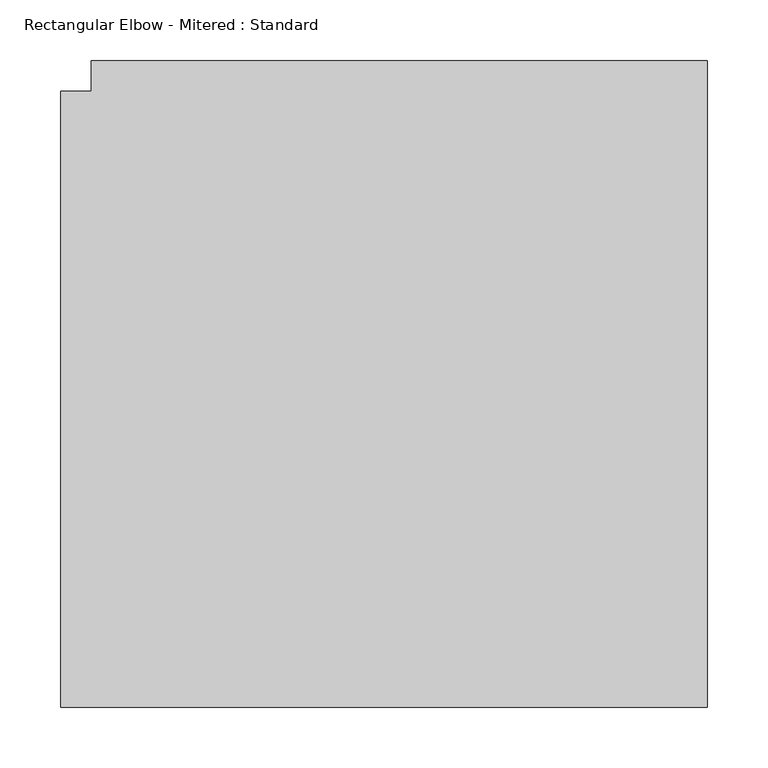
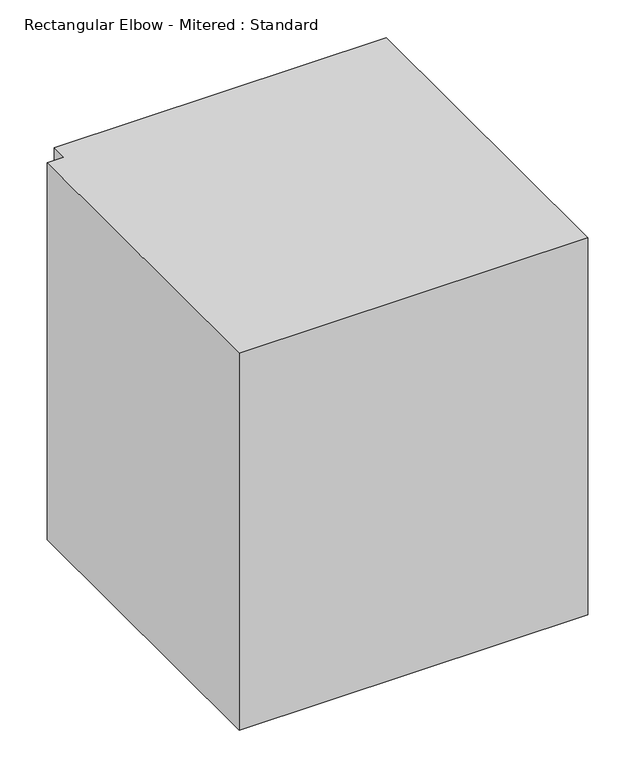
"""IFC4 building model written with IfcOpenShell, lengths in millimetres: duct fitting geometry, Rectangular Elbow - Mitered : Standard."""

from ifc_helpers import new_model, si_unit, frame, origin, place, context, project, spatial, polyline, outline, extrude, source, transform, mapped, element, save


def rectangular_elbow_mitered_standard_0526e773(model_context):
    return source(origin(), model_context, "Body", "SweptSolid", [
        extrude(outline(polyline([(-279.4, -254.0), (-279.4, 254.0), (-254.0, 254.0), (-254.0, 279.4), (254.0, 279.4), (254.0, -254.0), (-279.4, -254.0)])), frame((0.0, 0.0, -304.8), z_axis=(0.0, 0.0, 1.0), x_axis=(1.0, 0.0, 0.0)), (0.0, 0.0, 1.0), 609.6),
    ])


if __name__ == "__main__":
    model = new_model("IFC4")
    model_context = context("Model", 3, world=origin())
    ifc_project = project(units=[si_unit("LENGTHUNIT", "METRE", prefix="MILLI")], contexts=[model_context])
    site = spatial("IfcSite", under=ifc_project)
    building = spatial("IfcBuilding", under=site)
    placement = place(None, origin())
    rectangular_elbow_mitered_standard_shape = rectangular_elbow_mitered_standard_0526e773(model_context)
    element("IfcDuctFitting", 1, ObjectType="Rectangular Elbow - Mitered : Standard", at=placement, inside=building, context=model_context, shape_type="MappedRepresentation", body=[
        mapped(rectangular_elbow_mitered_standard_shape, transform((0.0, 0.0, 0.0), x_axis=(1.0, 0.0, 0.0), y_axis=(0.0, 1.0, 0.0), z_axis=(0.0, 0.0, 1.0))),
    ])
    save(model, "model.ifc")
